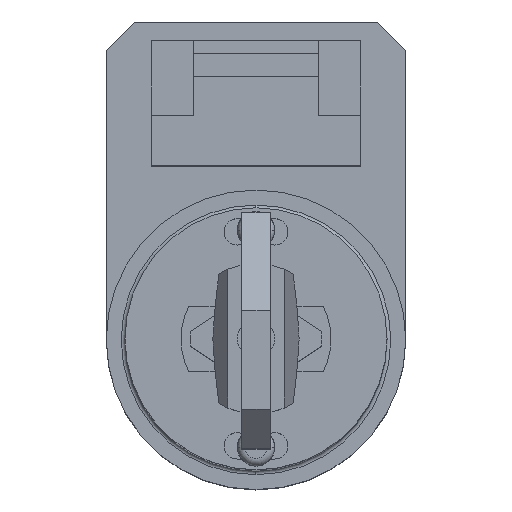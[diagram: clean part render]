
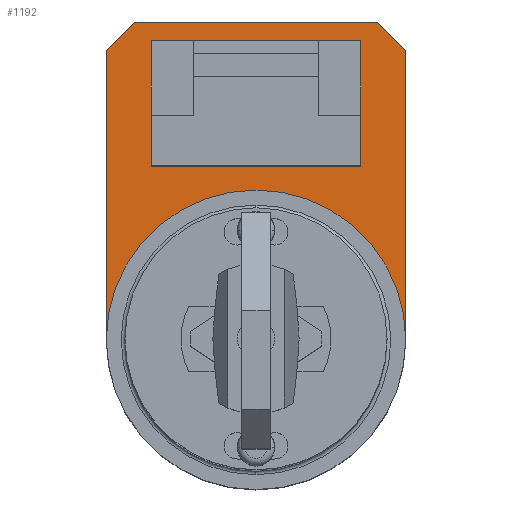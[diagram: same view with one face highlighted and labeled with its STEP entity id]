
A CAD part, top view. The second image highlights one B-rep face of the part: STEP entity #1192.
In plain terms, the highlighted planar face has unit normal (0, 0, 1).
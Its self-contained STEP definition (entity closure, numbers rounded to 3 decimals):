
#43 = AXIS2_PLACEMENT_3D ( 'NONE', #1677, #2735, #4090 ) ;
#64 = CARTESIAN_POINT ( 'NONE',  ( -8., 0., -39.3 ) ) ;
#126 = VERTEX_POINT ( 'NONE', #1637 ) ;
#158 = EDGE_CURVE ( 'NONE', #2553, #1284, #2614, .T. ) ;
#199 = LINE ( 'NONE', #1889, #1425 ) ;
#206 = LINE ( 'NONE', #911, #883 ) ;
#351 = LINE ( 'NONE', #2904, #3677 ) ;
#373 = EDGE_CURVE ( 'NONE', #4412, #2905, #863, .T. ) ;
#420 = DIRECTION ( 'NONE',  ( 0., 1., 0. ) ) ;
#516 = ORIENTED_EDGE ( 'NONE', *, *, #158, .F. ) ;
#517 = CARTESIAN_POINT ( 'NONE',  ( 6.5, 17., -39.3 ) ) ;
#665 = VECTOR ( 'NONE', #4078, 1000. ) ;
#674 = LINE ( 'NONE', #1638, #1048 ) ;
#705 = CARTESIAN_POINT ( 'NONE',  ( -5.6, 16., -39.3 ) ) ;
#726 = DIRECTION ( 'NONE',  ( 0., 0., 1. ) ) ;
#812 = ORIENTED_EDGE ( 'NONE', *, *, #3160, .F. ) ;
#845 = ORIENTED_EDGE ( 'NONE', *, *, #2482, .F. ) ;
#863 = LINE ( 'NONE', #64, #4358 ) ;
#883 = VECTOR ( 'NONE', #1268, 1000. ) ;
#911 = CARTESIAN_POINT ( 'NONE',  ( -5.6, 9.3, -39.3 ) ) ;
#954 = ORIENTED_EDGE ( 'NONE', *, *, #4384, .F. ) ;
#972 = CARTESIAN_POINT ( 'NONE',  ( 0., 8., -39.3 ) ) ;
#1024 = CARTESIAN_POINT ( 'NONE',  ( -6.5, 17., -39.3 ) ) ;
#1048 = VECTOR ( 'NONE', #1303, 1000. ) ;
#1081 = CARTESIAN_POINT ( 'NONE',  ( 0., 0., -39.3 ) ) ;
#1092 = ORIENTED_EDGE ( 'NONE', *, *, #3221, .F. ) ;
#1133 = CARTESIAN_POINT ( 'NONE',  ( 8., 0., -39.3 ) ) ;
#1189 = ORIENTED_EDGE ( 'NONE', *, *, #2642, .F. ) ;
#1190 = AXIS2_PLACEMENT_3D ( 'NONE', #2634, #4357, #3648 ) ;
#1192 = ADVANCED_FACE ( 'NONE', ( #4044, #2922 ), #1694, .F. ) ;
#1196 = VECTOR ( 'NONE', #4396, 1000. ) ;
#1211 = EDGE_CURVE ( 'NONE', #2905, #1798, #3503, .T. ) ;
#1268 = DIRECTION ( 'NONE',  ( 1., 0., 0. ) ) ;
#1284 = VERTEX_POINT ( 'NONE', #4124 ) ;
#1303 = DIRECTION ( 'NONE',  ( 1., 0., 0. ) ) ;
#1316 = EDGE_CURVE ( 'NONE', #1568, #2553, #3390, .T. ) ;
#1343 = EDGE_CURVE ( 'NONE', #1454, #3556, #4152, .T. ) ;
#1371 = ORIENTED_EDGE ( 'NONE', *, *, #373, .F. ) ;
#1375 = CARTESIAN_POINT ( 'NONE',  ( -8., 15.5, -39.3 ) ) ;
#1425 = VECTOR ( 'NONE', #1513, 1000. ) ;
#1454 = VERTEX_POINT ( 'NONE', #1133 ) ;
#1479 = VERTEX_POINT ( 'NONE', #2479 ) ;
#1513 = DIRECTION ( 'NONE',  ( 0., 1., 0. ) ) ;
#1528 = ORIENTED_EDGE ( 'NONE', *, *, #1343, .F. ) ;
#1568 = VERTEX_POINT ( 'NONE', #3743 ) ;
#1580 = ORIENTED_EDGE ( 'NONE', *, *, #3340, .F. ) ;
#1582 = LINE ( 'NONE', #2209, #1636 ) ;
#1607 = CARTESIAN_POINT ( 'NONE',  ( -8., 0., -39.3 ) ) ;
#1636 = VECTOR ( 'NONE', #2239, 1000. ) ;
#1637 = CARTESIAN_POINT ( 'NONE',  ( 8., 15.5, -39.3 ) ) ;
#1638 = CARTESIAN_POINT ( 'NONE',  ( 6.5, 17., -39.3 ) ) ;
#1677 = CARTESIAN_POINT ( 'NONE',  ( 0., 0., -39.3 ) ) ;
#1694 = PLANE ( 'NONE',  #43 ) ;
#1786 = AXIS2_PLACEMENT_3D ( 'NONE', #1081, #726, #3426 ) ;
#1798 = VERTEX_POINT ( 'NONE', #1024 ) ;
#1889 = CARTESIAN_POINT ( 'NONE',  ( 5.6, 16., -39.3 ) ) ;
#1995 = CARTESIAN_POINT ( 'NONE',  ( -5.6, 16., -39.3 ) ) ;
#2080 = CIRCLE ( 'NONE', #1190, 8. ) ;
#2209 = CARTESIAN_POINT ( 'NONE',  ( 8., 0., -39.3 ) ) ;
#2239 = DIRECTION ( 'NONE',  ( 0., -1., 0. ) ) ;
#2342 = EDGE_LOOP ( 'NONE', ( #516, #3507, #1580, #954 ) ) ;
#2479 = CARTESIAN_POINT ( 'NONE',  ( 5.6, 9.3, -39.3 ) ) ;
#2482 = EDGE_CURVE ( 'NONE', #1798, #3241, #674, .T. ) ;
#2553 = VERTEX_POINT ( 'NONE', #2971 ) ;
#2614 = LINE ( 'NONE', #1995, #665 ) ;
#2634 = CARTESIAN_POINT ( 'NONE',  ( 0., 0., -39.3 ) ) ;
#2642 = EDGE_CURVE ( 'NONE', #3556, #4412, #2080, .T. ) ;
#2735 = DIRECTION ( 'NONE',  ( 0., 0., -1. ) ) ;
#2745 = DIRECTION ( 'NONE',  ( -1., 0., 0. ) ) ;
#2825 = ORIENTED_EDGE ( 'NONE', *, *, #1211, .F. ) ;
#2904 = CARTESIAN_POINT ( 'NONE',  ( 8., 15.5, -39.3 ) ) ;
#2905 = VERTEX_POINT ( 'NONE', #1375 ) ;
#2922 = FACE_BOUND ( 'NONE', #2342, .T. ) ;
#2930 = EDGE_LOOP ( 'NONE', ( #1528, #1092, #812, #845, #2825, #1371, #1189 ) ) ;
#2971 = CARTESIAN_POINT ( 'NONE',  ( -5.6, 16., -39.3 ) ) ;
#3026 = CARTESIAN_POINT ( 'NONE',  ( -6.5, 17., -39.3 ) ) ;
#3160 = EDGE_CURVE ( 'NONE', #3241, #126, #351, .T. ) ;
#3221 = EDGE_CURVE ( 'NONE', #126, #1454, #1582, .T. ) ;
#3241 = VERTEX_POINT ( 'NONE', #517 ) ;
#3334 = VECTOR ( 'NONE', #2745, 1000. ) ;
#3340 = EDGE_CURVE ( 'NONE', #1479, #1568, #199, .T. ) ;
#3390 = LINE ( 'NONE', #705, #3334 ) ;
#3426 = DIRECTION ( 'NONE',  ( 0., -1., 0. ) ) ;
#3503 = LINE ( 'NONE', #3026, #1196 ) ;
#3507 = ORIENTED_EDGE ( 'NONE', *, *, #1316, .F. ) ;
#3556 = VERTEX_POINT ( 'NONE', #972 ) ;
#3578 = DIRECTION ( 'NONE',  ( 0.707, -0.707, 0. ) ) ;
#3648 = DIRECTION ( 'NONE',  ( 0., -1., 0. ) ) ;
#3677 = VECTOR ( 'NONE', #3578, 1000. ) ;
#3743 = CARTESIAN_POINT ( 'NONE',  ( 5.6, 16., -39.3 ) ) ;
#4044 = FACE_OUTER_BOUND ( 'NONE', #2930, .T. ) ;
#4078 = DIRECTION ( 'NONE',  ( 0., -1., 0. ) ) ;
#4090 = DIRECTION ( 'NONE',  ( 0., 1., 0. ) ) ;
#4124 = CARTESIAN_POINT ( 'NONE',  ( -5.6, 9.3, -39.3 ) ) ;
#4152 = CIRCLE ( 'NONE', #1786, 8. ) ;
#4357 = DIRECTION ( 'NONE',  ( 0., 0., 1. ) ) ;
#4358 = VECTOR ( 'NONE', #420, 1000. ) ;
#4384 = EDGE_CURVE ( 'NONE', #1284, #1479, #206, .T. ) ;
#4396 = DIRECTION ( 'NONE',  ( 0.707, 0.707, 0. ) ) ;
#4412 = VERTEX_POINT ( 'NONE', #1607 ) ;
